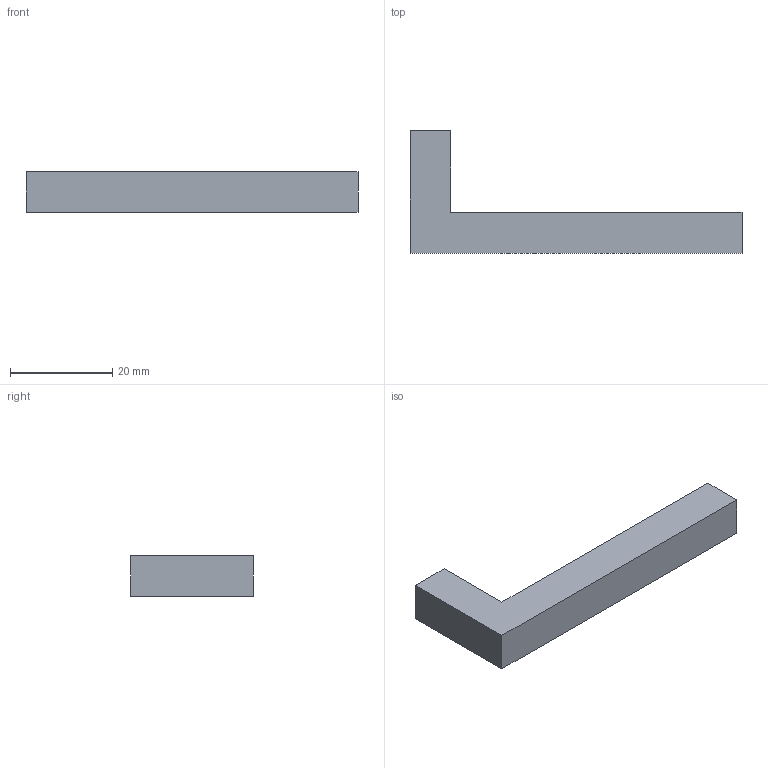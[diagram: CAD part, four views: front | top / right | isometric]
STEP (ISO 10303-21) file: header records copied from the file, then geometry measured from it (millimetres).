
FILE_DESCRIPTION(('FreeCAD Model'),'2;1');
FILE_NAME('Open CASCADE Shape Model','2026-09-11T14:18:25',( '' ),( '' ),'Open CASCADE STEP processor 7.8','FreeCAD','Unknown');
FILE_SCHEMA(('AUTOMOTIVE_DESIGN { 1 0 10303 214 1 1 1 1 }'));
Length unit declared in the file: millimetre
Products named in the file (1): Open CASCADE STEP translator 7.8 13
Bounding box: 65 x 24 x 8 mm (x, y, z)
Volume: 5184 mm3; surface area: 2720 mm2
Topology: 1 solids, 1 shells, 8 faces, 18 edges, 12 vertices
Faces by surface type: plane 8
Entity records: 232 total; most frequent: CARTESIAN_POINT 39, DIRECTION 36, ORIENTED_EDGE 36, EDGE_CURVE 18, LINE 18, VECTOR 18, VERTEX_POINT 12, AXIS2_PLACEMENT_3D 9
